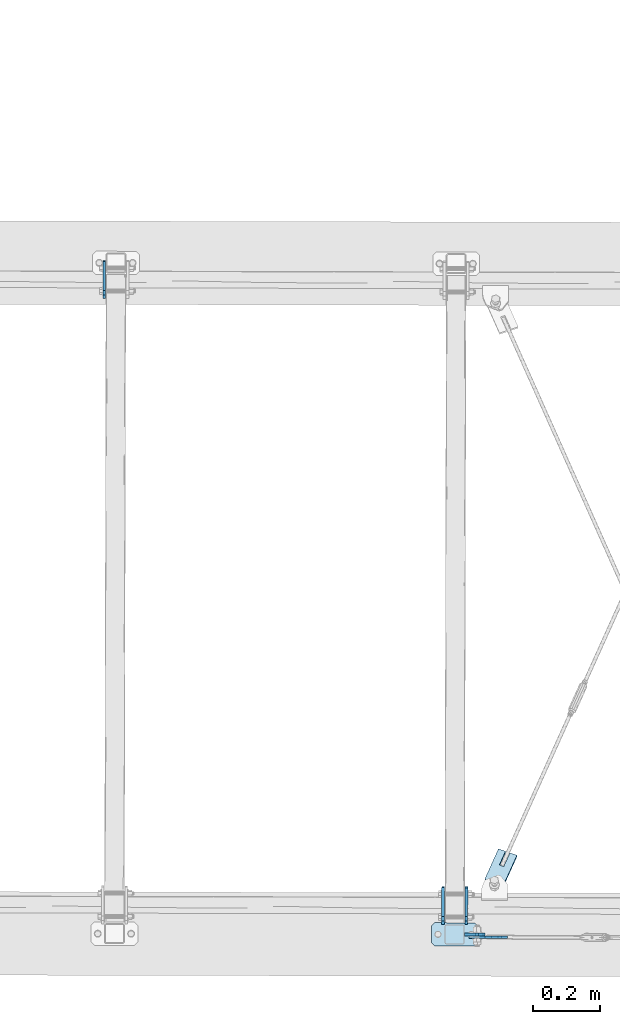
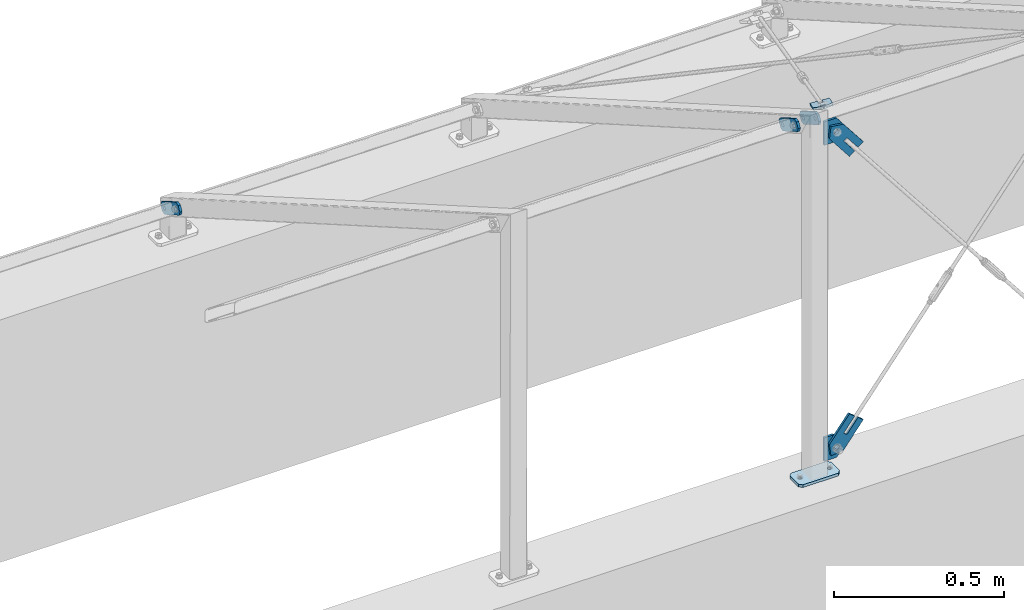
# One storey, part 33 of 288: 9 plates, 40 openings.
"""IFC2X3 building model written with IfcOpenShell, lengths in millimetres."""

from ifc_helpers import new_model, entity, si_unit, converted_unit, point, frame, frame_2d, origin, origin_with_axes, origin_2d_with_axis, place, context, project, spatial, polyline, circle_curve, line_curve, trimmed, segment, composite_curve, circle, outline, extrude, material, layer, layer_set, element, save


model = new_model("IFC2X3")

# Units and contexts
model_context = context("Model", 3, precision=1e-09, world=origin_with_axes())
ifc_project = project(units=[si_unit("LENGTHUNIT", "METRE", prefix="MILLI"), si_unit("AREAUNIT", "SQUARE_METRE"), si_unit("VOLUMEUNIT", "CUBIC_METRE"), converted_unit("PLANEANGLEUNIT", "DEGREE", entity("IfcPlaneAngleMeasure", 0.01745329), si_unit("PLANEANGLEUNIT", "RADIAN"), dimensions=[0, 0, 0, 0, 0, 0, 0])], contexts=[model_context])

# Site, building, storey
site_placement = place(None, origin_with_axes())
site = spatial("IfcSite", under=ifc_project, at=site_placement, Name="Remont ?wietlik?w nad MC w NCPP w Opolu", CompositionType="ELEMENT")
building_placement = place(site_placement, origin_with_axes())
building = spatial("IfcBuilding", under=site, at=building_placement, Name="Konstrukcja 1", CompositionType="ELEMENT")
storey_placement = place(building_placement, origin_with_axes())
storey = spatial("IfcBuildingStorey", under=building, at=storey_placement, Name="Default Storey", CompositionType="ELEMENT", Elevation=0.0)

# Plate, openings
ifc_material = material(Name="S235")
ifc_layer_1 = layer(ifc_material, 8.0)
ifc_layer_set_1 = layer_set([ifc_layer_1], Name="S235")
plate_1_placement = place(None, frame((6027.876649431, -113.930950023, 1232.669373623), z_axis=(0.999997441, -0.002262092, 1.05e-07), x_axis=(0.001959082, 0.866023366, -0.499999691)))
plate_1 = element("IfcPlate", 1, at=plate_1_placement, inside=storey, material=ifc_layer_set_1, Name="-", ObjectType="-", context=model_context, shape_type="SweptSolid", body=[
    extrude(outline(polyline([(0.0, 0.0), (120.0, 0.0), (120.0, 40.0), (0.0, 40.0), (0.0, 0.0)])), origin_with_axes(), (0.0, 0.0, 1.0), 8.0),
])
opening_1_placement = place(plate_1_placement, frame((0.0, 0.0, -0.01), z_axis=(0.0, 0.0, 1.0), x_axis=(1.0, 0.0, 0.0)))
element("IfcOpeningElement", 2, at=opening_1_placement, cuts=plate_1, ObjectType="Opening", context=model_context, shape_type="SweptSolid", body=[
    extrude(outline(composite_curve([segment(trimmed(line_curve((0.0, 40.0), (0.0, -1.0), 10.0), [point((0.0, 40.0))], [point((0.0, 30.0))], True, "CARTESIAN"), True, "CONTINUOUS"), segment(trimmed(circle_curve(frame_2d((10.0, 30.0), x_axis=(-1.0, 0.0)), 10.0), [point((0.0, 30.0))], [point((10.0, 40.0))], False, "CARTESIAN"), True, "CONTINUOUS"), segment(trimmed(line_curve((10.0, 40.0), (-1.0, 0.0), 10.0), [point((10.0, 40.0))], [point((0.0, 40.0))], True, "CARTESIAN"), True, "CONTINUOUS")], self_intersect=False)), origin(), (0.0, 0.0, 1.0), 8.02),
])
opening_2_placement = place(plate_1_placement, frame((0.0, 0.0, -0.01), z_axis=(0.0, 0.0, 1.0), x_axis=(1.0, 0.0, 0.0)))
element("IfcOpeningElement", 3, at=opening_2_placement, cuts=plate_1, ObjectType="Opening", context=model_context, shape_type="SweptSolid", body=[
    extrude(outline(composite_curve([segment(trimmed(line_curve((0.0, 0.0), (1.0, 0.0), 10.0), [point((0.0, 0.0))], [point((10.0, 0.0))], True, "CARTESIAN"), True, "CONTINUOUS"), segment(trimmed(circle_curve(frame_2d((10.0, 10.0), x_axis=(-1.0, 0.0)), 10.0), [point((10.0, 0.0))], [point((0.0, 10.0))], False, "CARTESIAN"), True, "CONTINUOUS"), segment(trimmed(line_curve((0.0, 10.0), (0.0, -1.0), 10.0), [point((0.0, 10.0))], [point((0.0, 0.0))], True, "CARTESIAN"), True, "CONTINUOUS")], self_intersect=False)), origin(), (0.0, 0.0, 1.0), 8.02),
])
opening_3_placement = place(plate_1_placement, frame((0.0, 0.0, -0.01), z_axis=(0.0, 0.0, 1.0), x_axis=(1.0, 0.0, 0.0)))
element("IfcOpeningElement", 4, at=opening_3_placement, cuts=plate_1, ObjectType="Opening", context=model_context, shape_type="SweptSolid", body=[
    extrude(outline(composite_curve([segment(trimmed(line_curve((120.0, 40.0), (-1.0, 0.0), 10.0), [point((120.0, 40.0))], [point((110.0, 40.0))], True, "CARTESIAN"), True, "CONTINUOUS"), segment(trimmed(circle_curve(frame_2d((110.0, 30.0), x_axis=(-1.0, 0.0)), 10.0), [point((110.0, 40.0))], [point((120.0, 30.0))], False, "CARTESIAN"), True, "CONTINUOUS"), segment(trimmed(line_curve((120.0, 30.0), (0.0, 1.0), 10.0), [point((120.0, 30.0))], [point((120.0, 40.0))], True, "CARTESIAN"), True, "CONTINUOUS")], self_intersect=False)), origin(), (0.0, 0.0, 1.0), 8.02),
])
opening_4_placement = place(plate_1_placement, frame((0.0, 0.0, -0.01), z_axis=(0.0, 0.0, 1.0), x_axis=(1.0, 0.0, 0.0)))
element("IfcOpeningElement", 5, at=opening_4_placement, cuts=plate_1, ObjectType="Opening", context=model_context, shape_type="SweptSolid", body=[
    extrude(outline(composite_curve([segment(trimmed(line_curve((120.0, 0.0), (0.0, 1.0), 10.0), [point((120.0, 0.0))], [point((120.0, 10.0))], True, "CARTESIAN"), True, "CONTINUOUS"), segment(trimmed(circle_curve(frame_2d((110.0, 10.0), x_axis=(-1.0, 0.0)), 10.0), [point((120.0, 10.0))], [point((110.0, 0.0))], False, "CARTESIAN"), True, "CONTINUOUS"), segment(trimmed(line_curve((110.0, 0.0), (1.0, 0.0), 10.0), [point((110.0, 0.0))], [point((120.0, 0.0))], True, "CARTESIAN"), True, "CONTINUOUS")], self_intersect=False)), origin(), (0.0, 0.0, 1.0), 8.02),
])
opening_5_placement = place(plate_1_placement, frame((60.0, 20.0, 8.5), z_axis=(0.0, 0.0, -1.0), x_axis=(-1.0, 0.0, 0.0)))
element("IfcOpeningElement", 6, at=opening_5_placement, cuts=plate_1, ObjectType="Opening", context=model_context, shape_type="SweptSolid", body=[
    extrude(circle(Radius=7.001, at=frame_2d((40.0, 0.0), x_axis=(1.0, 0.0))), origin(), (0.0, 0.0, 1.0), 9.0),
])
opening_6_placement = place(plate_1_placement, frame((60.0, 20.0, 8.5), z_axis=(0.0, 0.0, -1.0), x_axis=(-1.0, 0.0, 0.0)))
element("IfcOpeningElement", 7, at=opening_6_placement, cuts=plate_1, ObjectType="Opening", context=model_context, shape_type="SweptSolid", body=[
    extrude(circle(Radius=7.001, at=frame_2d((-40.0, 0.0), x_axis=(1.0, 0.0))), origin(), (0.0, 0.0, 1.0), 9.0),
])

plate_2_placement = place(None, frame((5957.876678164, -113.772749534, 1232.66911287), z_axis=(0.999997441, -0.002262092, 1.05e-07), x_axis=(0.001959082, 0.866023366, -0.499999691)))
plate_2 = element("IfcPlate", 8, at=plate_2_placement, inside=storey, material=ifc_layer_set_1, Name="-", ObjectType="-", context=model_context, shape_type="SweptSolid", body=[
    extrude(outline(polyline([(0.0, 0.0), (120.0, 0.0), (120.0, 40.0), (0.0, 40.0), (0.0, 0.0)])), origin_with_axes(), (0.0, 0.0, 1.0), 8.0),
])
opening_7_placement = place(plate_2_placement, frame((0.0, 0.0, -0.01), z_axis=(0.0, 0.0, 1.0), x_axis=(1.0, 0.0, 0.0)))
element("IfcOpeningElement", 9, at=opening_7_placement, cuts=plate_2, ObjectType="Opening", context=model_context, shape_type="SweptSolid", body=[
    extrude(outline(composite_curve([segment(trimmed(line_curve((0.0, 40.0), (0.0, -1.0), 10.0), [point((0.0, 40.0))], [point((0.0, 30.0))], True, "CARTESIAN"), True, "CONTINUOUS"), segment(trimmed(circle_curve(frame_2d((10.0, 30.0), x_axis=(-1.0, 0.0)), 10.0), [point((0.0, 30.0))], [point((10.0, 40.0))], False, "CARTESIAN"), True, "CONTINUOUS"), segment(trimmed(line_curve((10.0, 40.0), (-1.0, 0.0), 10.0), [point((10.0, 40.0))], [point((0.0, 40.0))], True, "CARTESIAN"), True, "CONTINUOUS")], self_intersect=False)), origin(), (0.0, 0.0, 1.0), 8.02),
])
opening_8_placement = place(plate_2_placement, frame((0.0, 0.0, -0.01), z_axis=(0.0, 0.0, 1.0), x_axis=(1.0, 0.0, 0.0)))
element("IfcOpeningElement", 10, at=opening_8_placement, cuts=plate_2, ObjectType="Opening", context=model_context, shape_type="SweptSolid", body=[
    extrude(outline(composite_curve([segment(trimmed(line_curve((0.0, 0.0), (1.0, 0.0), 10.0), [point((0.0, 0.0))], [point((10.0, 0.0))], True, "CARTESIAN"), True, "CONTINUOUS"), segment(trimmed(circle_curve(frame_2d((10.0, 10.0), x_axis=(-1.0, 0.0)), 10.0), [point((10.0, 0.0))], [point((0.0, 10.0))], False, "CARTESIAN"), True, "CONTINUOUS"), segment(trimmed(line_curve((0.0, 10.0), (0.0, -1.0), 10.0), [point((0.0, 10.0))], [point((0.0, 0.0))], True, "CARTESIAN"), True, "CONTINUOUS")], self_intersect=False)), origin(), (0.0, 0.0, 1.0), 8.02),
])
opening_9_placement = place(plate_2_placement, frame((0.0, 0.0, -0.01), z_axis=(0.0, 0.0, 1.0), x_axis=(1.0, 0.0, 0.0)))
element("IfcOpeningElement", 11, at=opening_9_placement, cuts=plate_2, ObjectType="Opening", context=model_context, shape_type="SweptSolid", body=[
    extrude(outline(composite_curve([segment(trimmed(line_curve((120.0, 40.0), (-1.0, 0.0), 10.0), [point((120.0, 40.0))], [point((110.0, 40.0))], True, "CARTESIAN"), True, "CONTINUOUS"), segment(trimmed(circle_curve(frame_2d((110.0, 30.0), x_axis=(-1.0, 0.0)), 10.0), [point((110.0, 40.0))], [point((120.0, 30.0))], False, "CARTESIAN"), True, "CONTINUOUS"), segment(trimmed(line_curve((120.0, 30.0), (0.0, 1.0), 10.0), [point((120.0, 30.0))], [point((120.0, 40.0))], True, "CARTESIAN"), True, "CONTINUOUS")], self_intersect=False)), origin(), (0.0, 0.0, 1.0), 8.02),
])
opening_10_placement = place(plate_2_placement, frame((0.0, 0.0, -0.01), z_axis=(0.0, 0.0, 1.0), x_axis=(1.0, 0.0, 0.0)))
element("IfcOpeningElement", 12, at=opening_10_placement, cuts=plate_2, ObjectType="Opening", context=model_context, shape_type="SweptSolid", body=[
    extrude(outline(composite_curve([segment(trimmed(line_curve((120.0, 0.0), (0.0, 1.0), 10.0), [point((120.0, 0.0))], [point((120.0, 10.0))], True, "CARTESIAN"), True, "CONTINUOUS"), segment(trimmed(circle_curve(frame_2d((110.0, 10.0), x_axis=(-1.0, 0.0)), 10.0), [point((120.0, 10.0))], [point((110.0, 0.0))], False, "CARTESIAN"), True, "CONTINUOUS"), segment(trimmed(line_curve((110.0, 0.0), (1.0, 0.0), 10.0), [point((110.0, 0.0))], [point((120.0, 0.0))], True, "CARTESIAN"), True, "CONTINUOUS")], self_intersect=False)), origin(), (0.0, 0.0, 1.0), 8.02),
])
opening_11_placement = place(plate_2_placement, frame((60.0, 20.000292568, 8.5), z_axis=(0.0, 0.0, -1.0), x_axis=(-1.0, 0.0, 0.0)))
element("IfcOpeningElement", 13, at=opening_11_placement, cuts=plate_2, ObjectType="Opening", context=model_context, shape_type="SweptSolid", body=[
    extrude(circle(Radius=7.001, at=frame_2d((40.0, 0.0), x_axis=(1.0, 0.0))), origin(), (0.0, 0.0, 1.0), 9.0),
])
opening_12_placement = place(plate_2_placement, frame((60.0, 20.000292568, 8.5), z_axis=(0.0, 0.0, -1.0), x_axis=(-1.0, 0.0, 0.0)))
element("IfcOpeningElement", 14, at=opening_12_placement, cuts=plate_2, ObjectType="Opening", context=model_context, shape_type="SweptSolid", body=[
    extrude(circle(Radius=7.001, at=frame_2d((-40.0, 0.0), x_axis=(1.0, 0.0))), origin(), (0.0, 0.0, 1.0), 9.0),
])

plate_3_placement = place(None, frame((4950.659387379, 1761.994070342, 151.018387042), z_axis=(0.999997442, -0.002261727, -1.05e-07), x_axis=(0.00195866, 0.866023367, -0.499999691)))
plate_3 = element("IfcPlate", 15, at=plate_3_placement, inside=storey, material=ifc_layer_set_1, Name="-", ObjectType="-", context=model_context, shape_type="SweptSolid", body=[
    extrude(outline(polyline([(0.0, 0.0), (120.0, 0.0), (120.0, 40.0), (0.0, 40.0), (0.0, 0.0)])), origin_with_axes(), (0.0, 0.0, -1.0), 8.0),
])
opening_13_placement = place(plate_3_placement, frame((0.0, 40.0, 0.01), z_axis=(0.0, 0.0, 1.0), x_axis=(0.0, -1.0, 0.0)))
element("IfcOpeningElement", 16, at=opening_13_placement, cuts=plate_3, ObjectType="Opening", context=model_context, shape_type="SweptSolid", body=[
    extrude(outline(composite_curve([segment(trimmed(line_curve((0.0, 0.0), (1.0, 0.0), 10.0), [point((0.0, 0.0))], [point((10.0, 0.0))], True, "CARTESIAN"), True, "CONTINUOUS"), segment(trimmed(circle_curve(frame_2d((10.0, 10.0), x_axis=(-1.0, 0.0)), 10.0), [point((10.0, 0.0))], [point((0.0, 10.0))], False, "CARTESIAN"), True, "CONTINUOUS"), segment(trimmed(line_curve((0.0, 10.0), (0.0, -1.0), 10.0), [point((0.0, 10.0))], [point((0.0, 0.0))], True, "CARTESIAN"), True, "CONTINUOUS")], self_intersect=False)), origin(), (0.0, 0.0, -1.0), 8.02),
])
opening_14_placement = place(plate_3_placement, frame((0.0, 0.0, 0.01), z_axis=(0.0, 0.0, 1.0), x_axis=(1.0, 0.0, 0.0)))
element("IfcOpeningElement", 17, at=opening_14_placement, cuts=plate_3, ObjectType="Opening", context=model_context, shape_type="SweptSolid", body=[
    extrude(outline(composite_curve([segment(trimmed(line_curve((0.0, 0.0), (1.0, 0.0), 10.0), [point((0.0, 0.0))], [point((10.0, 0.0))], True, "CARTESIAN"), True, "CONTINUOUS"), segment(trimmed(circle_curve(frame_2d((10.0, 10.0), x_axis=(-1.0, 0.0)), 10.0), [point((10.0, 0.0))], [point((0.0, 10.0))], False, "CARTESIAN"), True, "CONTINUOUS"), segment(trimmed(line_curve((0.0, 10.0), (0.0, -1.0), 10.0), [point((0.0, 10.0))], [point((0.0, 0.0))], True, "CARTESIAN"), True, "CONTINUOUS")], self_intersect=False)), origin(), (0.0, 0.0, -1.0), 8.02),
])
opening_15_placement = place(plate_3_placement, frame((120.0, 40.0, 0.01), z_axis=(0.0, 0.0, 1.0), x_axis=(-1.0, 0.0, 0.0)))
element("IfcOpeningElement", 18, at=opening_15_placement, cuts=plate_3, ObjectType="Opening", context=model_context, shape_type="SweptSolid", body=[
    extrude(outline(composite_curve([segment(trimmed(line_curve((0.0, 0.0), (1.0, 0.0), 10.0), [point((0.0, 0.0))], [point((10.0, 0.0))], True, "CARTESIAN"), True, "CONTINUOUS"), segment(trimmed(circle_curve(frame_2d((10.0, 10.0), x_axis=(-1.0, 0.0)), 10.0), [point((10.0, 0.0))], [point((0.0, 10.0))], False, "CARTESIAN"), True, "CONTINUOUS"), segment(trimmed(line_curve((0.0, 10.0), (0.0, -1.0), 10.0), [point((0.0, 10.0))], [point((0.0, 0.0))], True, "CARTESIAN"), True, "CONTINUOUS")], self_intersect=False)), origin(), (0.0, 0.0, -1.0), 8.02),
])
opening_16_placement = place(plate_3_placement, frame((120.0, 0.0, 0.01), z_axis=(0.0, 0.0, 1.0), x_axis=(0.0, 1.0, 0.0)))
element("IfcOpeningElement", 19, at=opening_16_placement, cuts=plate_3, ObjectType="Opening", context=model_context, shape_type="SweptSolid", body=[
    extrude(outline(composite_curve([segment(trimmed(line_curve((0.0, 0.0), (1.0, 0.0), 10.0), [point((0.0, 0.0))], [point((10.0, 0.0))], True, "CARTESIAN"), True, "CONTINUOUS"), segment(trimmed(circle_curve(frame_2d((10.0, 10.0), x_axis=(-1.0, 0.0)), 10.0), [point((10.0, 0.0))], [point((0.0, 10.0))], False, "CARTESIAN"), True, "CONTINUOUS"), segment(trimmed(line_curve((0.0, 10.0), (0.0, -1.0), 10.0), [point((0.0, 10.0))], [point((0.0, 0.0))], True, "CARTESIAN"), True, "CONTINUOUS")], self_intersect=False)), origin(), (0.0, 0.0, -1.0), 8.02),
])
opening_17_placement = place(plate_3_placement, frame((60.0, 20.0, 0.5), z_axis=(0.0, 0.0, -1.0), x_axis=(-1.0, 0.0, 0.0)))
element("IfcOpeningElement", 20, at=opening_17_placement, cuts=plate_3, ObjectType="Opening", context=model_context, shape_type="SweptSolid", body=[
    extrude(circle(Radius=7.001, at=frame_2d((40.0, 0.0), x_axis=(1.0, 0.0))), origin(), (0.0, 0.0, 1.0), 9.0),
])
opening_18_placement = place(plate_3_placement, frame((60.0, 20.0, 0.5), z_axis=(0.0, 0.0, -1.0), x_axis=(-1.0, 0.0, 0.0)))
element("IfcOpeningElement", 21, at=opening_18_placement, cuts=plate_3, ObjectType="Opening", context=model_context, shape_type="SweptSolid", body=[
    extrude(circle(Radius=7.001, at=frame_2d((-40.0, 0.0), x_axis=(1.0, 0.0))), origin(), (0.0, 0.0, 1.0), 9.0),
])

ifc_layer_2 = layer(ifc_material, 10.0)
ifc_layer_set_2 = layer_set([ifc_layer_2], Name="S235")
plate_4_placement = place(None, frame((6066.89985692, -103.678053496, 10.000000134), z_axis=(0.0, 0.0, -1.0), x_axis=(-0.002261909, -0.999997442, 0.0)))
plate_4 = element("IfcPlate", 22, at=plate_4_placement, inside=storey, material=ifc_layer_set_2, Name="Baseplate", ObjectType="Baseplate", context=model_context, shape_type="SweptSolid", body=[
    extrude(outline(polyline([(0.0, 0.0), (70.0, 0.0), (70.0, 140.0), (0.0, 140.0), (0.0, 0.0)])), origin_with_axes(), (0.0, 0.0, 1.0), 10.0),
])
opening_19_placement = place(plate_4_placement, frame((0.0, 0.0, -0.01), z_axis=(0.0, 0.0, 1.0), x_axis=(1.0, 0.0, 0.0)))
element("IfcOpeningElement", 23, at=opening_19_placement, cuts=plate_4, ObjectType="Opening", context=model_context, shape_type="SweptSolid", body=[
    extrude(outline(composite_curve([segment(trimmed(line_curve((70.0, 0.0), (0.0, 1.0), 10.0), [point((70.0, 0.0))], [point((70.0, 10.0))], True, "CARTESIAN"), True, "CONTINUOUS"), segment(trimmed(circle_curve(frame_2d((60.0, 10.0), x_axis=(-1.0, 0.0)), 10.0), [point((70.0, 10.0))], [point((60.0, 0.0))], False, "CARTESIAN"), True, "CONTINUOUS"), segment(trimmed(line_curve((60.0, 0.0), (1.0, 0.0), 10.0), [point((60.0, 0.0))], [point((70.0, 0.0))], True, "CARTESIAN"), True, "CONTINUOUS")], self_intersect=False)), origin(), (0.0, 0.0, 1.0), 10.02),
])
opening_20_placement = place(plate_4_placement, frame((0.0, 0.0, -0.01), z_axis=(0.0, 0.0, 1.0), x_axis=(1.0, 0.0, 0.0)))
element("IfcOpeningElement", 24, at=opening_20_placement, cuts=plate_4, ObjectType="Opening", context=model_context, shape_type="SweptSolid", body=[
    extrude(outline(composite_curve([segment(trimmed(line_curve((0.0, 0.0), (1.0, 0.0), 10.0), [point((0.0, 0.0))], [point((10.0, 0.0))], True, "CARTESIAN"), True, "CONTINUOUS"), segment(trimmed(circle_curve(frame_2d((10.0, 10.0), x_axis=(-1.0, 0.0)), 10.0), [point((10.0, 0.0))], [point((0.0, 10.0))], False, "CARTESIAN"), True, "CONTINUOUS"), segment(trimmed(line_curve((0.0, 10.0), (0.0, -1.0), 10.0), [point((0.0, 10.0))], [point((0.0, 0.0))], True, "CARTESIAN"), True, "CONTINUOUS")], self_intersect=False)), origin(), (0.0, 0.0, 1.0), 10.02),
])
opening_21_placement = place(plate_4_placement, frame((0.0, 0.0, -0.01), z_axis=(0.0, 0.0, 1.0), x_axis=(1.0, 0.0, 0.0)))
element("IfcOpeningElement", 25, at=opening_21_placement, cuts=plate_4, ObjectType="Opening", context=model_context, shape_type="SweptSolid", body=[
    extrude(outline(composite_curve([segment(trimmed(line_curve((70.0, 140.0), (-1.0, 0.0), 10.0), [point((70.0, 140.0))], [point((60.0, 140.0))], True, "CARTESIAN"), True, "CONTINUOUS"), segment(trimmed(circle_curve(frame_2d((60.0, 130.0), x_axis=(-1.0, 0.0)), 10.0), [point((60.0, 140.0))], [point((70.0, 130.0))], False, "CARTESIAN"), True, "CONTINUOUS"), segment(trimmed(line_curve((70.0, 130.0), (0.0, 1.0), 10.0), [point((70.0, 130.0))], [point((70.0, 140.0))], True, "CARTESIAN"), True, "CONTINUOUS")], self_intersect=False)), origin(), (0.0, 0.0, 1.0), 10.02),
])
opening_22_placement = place(plate_4_placement, frame((0.0, 0.0, -0.01), z_axis=(0.0, 0.0, 1.0), x_axis=(1.0, 0.0, 0.0)))
element("IfcOpeningElement", 26, at=opening_22_placement, cuts=plate_4, ObjectType="Opening", context=model_context, shape_type="SweptSolid", body=[
    extrude(outline(composite_curve([segment(trimmed(line_curve((0.0, 140.0), (0.0, -1.0), 10.0), [point((0.0, 140.0))], [point((0.0, 130.0))], True, "CARTESIAN"), True, "CONTINUOUS"), segment(trimmed(circle_curve(frame_2d((10.0, 130.0), x_axis=(-1.0, 0.0)), 10.0), [point((0.0, 130.0))], [point((10.0, 140.0))], False, "CARTESIAN"), True, "CONTINUOUS"), segment(trimmed(line_curve((10.0, 140.0), (-1.0, 0.0), 10.0), [point((10.0, 140.0))], [point((0.0, 140.0))], True, "CARTESIAN"), True, "CONTINUOUS")], self_intersect=False)), origin(), (0.0, 0.0, 1.0), 10.02),
])
opening_23_placement = place(plate_4_placement, frame((35.0, 120.0, 10.5), z_axis=(0.0, 0.0, -1.0), x_axis=(1.0, 0.0, 0.0)))
element("IfcOpeningElement", 27, at=opening_23_placement, cuts=plate_4, ObjectType="Opening", context=model_context, shape_type="SweptSolid", body=[
    extrude(circle(Radius=6.001, at=origin_2d_with_axis()), origin(), (0.0, 0.0, 1.0), 11.0),
])
opening_24_placement = place(plate_4_placement, frame((35.0, 20.0, 10.5), z_axis=(0.0, 0.0, -1.0), x_axis=(1.0, 0.0, 0.0)))
element("IfcOpeningElement", 28, at=opening_24_placement, cuts=plate_4, ObjectType="Opening", context=model_context, shape_type="SweptSolid", body=[
    extrude(circle(Radius=6.001, at=origin_2d_with_axis()), origin(), (0.0, 0.0, 1.0), 11.0),
])

plate_5_placement = place(None, frame((6155.107534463, -142.876484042, 153.902138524), z_axis=(-0.002254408, -0.999997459, 0.0), x_axis=(-0.788044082, 0.001776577, 0.615616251)))
plate_5 = element("IfcPlate", 29, at=plate_5_placement, inside=storey, material=ifc_layer_set_1, Name="Tab_Plate#1", ObjectType="Tab_Plate#1", context=model_context, shape_type="SweptSolid", body=[
    extrude(outline(polyline([(0.0, 0.0), (60.0, 0.0), (60.0, 140.0), (0.0, 140.0), (0.0, 0.0)])), origin_with_axes(), (0.0, 0.0, 1.0), 8.0),
])
opening_25_placement = place(plate_5_placement, frame((0.0, 0.0, -0.01), z_axis=(0.0, 0.0, 1.0), x_axis=(1.0, 0.0, 0.0)))
element("IfcOpeningElement", 30, at=opening_25_placement, cuts=plate_5, ObjectType="Opening", context=model_context, shape_type="SweptSolid", body=[
    extrude(outline(composite_curve([segment(trimmed(line_curve((60.0, 140.0), (-1.0, 0.0), 30.0), [point((60.0, 140.0))], [point((30.0, 140.0))], True, "CARTESIAN"), True, "CONTINUOUS"), segment(trimmed(circle_curve(frame_2d((30.0, 110.0), x_axis=(-1.0, 0.0)), 30.0), [point((30.0, 140.0))], [point((60.0, 110.0))], False, "CARTESIAN"), True, "CONTINUOUS"), segment(trimmed(line_curve((60.0, 110.0), (0.0, 1.0), 30.0), [point((60.0, 110.0))], [point((60.0, 140.0))], True, "CARTESIAN"), True, "CONTINUOUS")], self_intersect=False)), origin(), (0.0, 0.0, 1.0), 8.02),
])
opening_26_placement = place(plate_5_placement, frame((0.0, 0.0, -0.01), z_axis=(0.0, 0.0, 1.0), x_axis=(1.0, 0.0, 0.0)))
element("IfcOpeningElement", 31, at=opening_26_placement, cuts=plate_5, ObjectType="Opening", context=model_context, shape_type="SweptSolid", body=[
    extrude(outline(composite_curve([segment(trimmed(line_curve((0.0, 140.0), (0.0, -1.0), 30.0), [point((0.0, 140.0))], [point((0.0, 110.0))], True, "CARTESIAN"), True, "CONTINUOUS"), segment(trimmed(circle_curve(frame_2d((30.0, 110.0), x_axis=(-1.0, 0.0)), 30.0), [point((0.0, 110.0))], [point((30.0, 140.0))], False, "CARTESIAN"), True, "CONTINUOUS"), segment(trimmed(line_curve((30.0, 140.0), (-1.0, 0.0), 30.0), [point((30.0, 140.0))], [point((0.0, 140.0))], True, "CARTESIAN"), True, "CONTINUOUS")], self_intersect=False)), origin(), (0.0, 0.0, 1.0), 8.02),
])
opening_27_placement = place(plate_5_placement, frame((0.0, 0.0, 8.1), z_axis=(0.0, 0.0, -1.0), x_axis=(0.788046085, 0.615616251, 0.0)))
element("IfcOpeningElement", 32, at=opening_27_placement, cuts=plate_5, ObjectType="Opening", context=model_context, shape_type="SweptSolid", body=[
    extrude(outline(polyline([(55.677478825, -33.913041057), (66.711700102, -25.293182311), (29.157877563, 22.779204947), (18.123656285, 14.159346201), (55.677478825, -33.913041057)])), origin(), (0.0, 0.0, 1.0), 8.2),
])
opening_28_placement = place(plate_5_placement, frame((30.0, 110.0, 8.5), z_axis=(0.0, 0.0, -1.0), x_axis=(0.0, -1.0, 0.0)))
element("IfcOpeningElement", 33, at=opening_28_placement, cuts=plate_5, ObjectType="Opening", context=model_context, shape_type="SweptSolid", body=[
    extrude(circle(Radius=9.001, at=origin_2d_with_axis()), origin(), (0.0, 0.0, 1.0), 9.0),
])

plate_6_placement = place(None, frame((6058.575714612, -142.658861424, 127.795426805), z_axis=(0.002254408, 0.999997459, 0.0), x_axis=(0.788044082, -0.001776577, -0.615616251)))
plate_6 = element("IfcPlate", 34, at=plate_6_placement, inside=storey, material=ifc_layer_set_1, Name="Gusset#1", ObjectType="Gusset#1", context=model_context, shape_type="SweptSolid", body=[
    extrude(outline(polyline([(0.0, 0.0), (60.0, 0.0), (60.0, 60.0), (26.815552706, 85.923464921), (-25.031487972, 19.554428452), (0.0, 0.0)])), origin_with_axes(), (0.0, 0.0, 1.0), 8.0),
])
opening_29_placement = place(plate_6_placement, frame((30.0, 30.0, -0.5), z_axis=(0.0, 0.0, 1.0), x_axis=(0.0, -1.0, 0.0)))
element("IfcOpeningElement", 35, at=opening_29_placement, cuts=plate_6, ObjectType="Opening", context=model_context, shape_type="SweptSolid", body=[
    extrude(circle(Radius=9.001, at=origin_2d_with_axis()), origin(), (0.0, 0.0, 1.0), 9.0),
])
opening_30_placement = place(plate_6_placement, frame((0.0, 0.0, -0.01), z_axis=(0.0, 0.0, 1.0), x_axis=(1.0, 0.0, 0.0)))
element("IfcOpeningElement", 36, at=opening_30_placement, cuts=plate_6, ObjectType="Opening", context=model_context, shape_type="SweptSolid", body=[
    extrude(outline(composite_curve([segment(trimmed(line_curve((60.0, 0.0), (0.0, 1.0), 30.0), [point((60.0, 0.0))], [point((60.0, 30.0))], True, "CARTESIAN"), True, "CONTINUOUS"), segment(trimmed(circle_curve(frame_2d((30.0, 30.0), x_axis=(-1.0, 0.0)), 30.0), [point((60.0, 30.0))], [point((30.0, 0.0))], False, "CARTESIAN"), True, "CONTINUOUS"), segment(trimmed(line_curve((30.0, 0.0), (1.0, 0.0), 30.0), [point((30.0, 0.0))], [point((60.0, 0.0))], True, "CARTESIAN"), True, "CONTINUOUS")], self_intersect=False)), origin(), (0.0, 0.0, 1.0), 8.02),
])

plate_7_placement = place(None, frame((6155.089451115, -150.871190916, 1151.097861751), z_axis=(0.002269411, 0.999997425, 0.0), x_axis=(-0.788044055, 0.0017884, -0.615616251)))
plate_7 = element("IfcPlate", 37, at=plate_7_placement, inside=storey, material=ifc_layer_set_1, Name="Tab_Plate#2", ObjectType="Tab_Plate#2", context=model_context, shape_type="SweptSolid", body=[
    extrude(outline(polyline([(0.0, 0.0), (60.0, 0.0), (60.0, 140.0), (0.0, 140.0), (0.0, 0.0)])), origin_with_axes(), (0.0, 0.0, 1.0), 8.0),
])
opening_31_placement = place(plate_7_placement, frame((0.0, 0.0, -0.01), z_axis=(0.0, 0.0, 1.0), x_axis=(1.0, 0.0, 0.0)))
element("IfcOpeningElement", 38, at=opening_31_placement, cuts=plate_7, ObjectType="Opening", context=model_context, shape_type="SweptSolid", body=[
    extrude(outline(composite_curve([segment(trimmed(line_curve((60.0, 140.0), (-1.0, 0.0), 30.0), [point((60.0, 140.0))], [point((30.0, 140.0))], True, "CARTESIAN"), True, "CONTINUOUS"), segment(trimmed(circle_curve(frame_2d((30.0, 110.0), x_axis=(-1.0, 0.0)), 30.0), [point((30.0, 140.0))], [point((60.0, 110.0))], False, "CARTESIAN"), True, "CONTINUOUS"), segment(trimmed(line_curve((60.0, 110.0), (0.0, 1.0), 30.0), [point((60.0, 110.0))], [point((60.0, 140.0))], True, "CARTESIAN"), True, "CONTINUOUS")], self_intersect=False)), origin(), (0.0, 0.0, 1.0), 8.02),
])
opening_32_placement = place(plate_7_placement, frame((0.0, 0.0, -0.01), z_axis=(0.0, 0.0, 1.0), x_axis=(1.0, 0.0, 0.0)))
element("IfcOpeningElement", 39, at=opening_32_placement, cuts=plate_7, ObjectType="Opening", context=model_context, shape_type="SweptSolid", body=[
    extrude(outline(composite_curve([segment(trimmed(line_curve((0.0, 140.0), (0.0, -1.0), 30.0), [point((0.0, 140.0))], [point((0.0, 110.0))], True, "CARTESIAN"), True, "CONTINUOUS"), segment(trimmed(circle_curve(frame_2d((30.0, 110.0), x_axis=(-1.0, 0.0)), 30.0), [point((0.0, 110.0))], [point((30.0, 140.0))], False, "CARTESIAN"), True, "CONTINUOUS"), segment(trimmed(line_curve((30.0, 140.0), (-1.0, 0.0), 30.0), [point((30.0, 140.0))], [point((0.0, 140.0))], True, "CARTESIAN"), True, "CONTINUOUS")], self_intersect=False)), origin(), (0.0, 0.0, 1.0), 8.02),
])
opening_33_placement = place(plate_7_placement, frame((0.0, 0.0, 8.1), z_axis=(0.0, 0.0, -1.0), x_axis=(-0.788046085, -0.615616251, 0.0)))
element("IfcOpeningElement", 40, at=opening_33_placement, cuts=plate_7, ObjectType="Opening", context=model_context, shape_type="SweptSolid", body=[
    extrude(outline(polyline([(-55.677478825, 33.913041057), (-66.711700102, 25.293182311), (-29.157877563, -22.779204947), (-18.123656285, -14.159346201), (-55.677478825, 33.913041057)])), origin(), (0.0, 0.0, 1.0), 8.2),
])
opening_34_placement = place(plate_7_placement, frame((30.0, 110.0, 8.5), z_axis=(0.0, 0.0, -1.0), x_axis=(0.0, -1.0, 0.0)))
element("IfcOpeningElement", 41, at=opening_34_placement, cuts=plate_7, ObjectType="Opening", context=model_context, shape_type="SweptSolid", body=[
    extrude(circle(Radius=9.001, at=origin_2d_with_axis()), origin(), (0.0, 0.0, 1.0), 9.0),
])

plate_8_placement = place(None, frame((6058.593945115, -134.652161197, 1177.20457347), z_axis=(-0.002269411, -0.999997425, 0.0), x_axis=(0.788044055, -0.0017884, 0.615616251)))
plate_8 = element("IfcPlate", 42, at=plate_8_placement, inside=storey, material=ifc_layer_set_1, Name="Gusset#2", ObjectType="Gusset#2", context=model_context, shape_type="SweptSolid", body=[
    extrude(outline(polyline([(0.0, 0.0), (60.0, 0.0), (60.0, 60.0), (26.815458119, 85.923538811), (-25.031582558, 19.554502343), (0.0, 0.0)])), origin_with_axes(), (0.0, 0.0, 1.0), 8.0),
])
opening_35_placement = place(plate_8_placement, frame((30.0, 30.0, -0.5), z_axis=(0.0, 0.0, 1.0), x_axis=(0.0, -1.0, 0.0)))
element("IfcOpeningElement", 43, at=opening_35_placement, cuts=plate_8, ObjectType="Opening", context=model_context, shape_type="SweptSolid", body=[
    extrude(circle(Radius=9.001, at=origin_2d_with_axis()), origin(), (0.0, 0.0, 1.0), 9.0),
])
opening_36_placement = place(plate_8_placement, frame((0.0, 0.0, -0.01), z_axis=(0.0, 0.0, 1.0), x_axis=(1.0, 0.0, 0.0)))
element("IfcOpeningElement", 44, at=opening_36_placement, cuts=plate_8, ObjectType="Opening", context=model_context, shape_type="SweptSolid", body=[
    extrude(outline(composite_curve([segment(trimmed(line_curve((60.0, 0.0), (0.0, 1.0), 30.0), [point((60.0, 0.0))], [point((60.0, 30.0))], True, "CARTESIAN"), True, "CONTINUOUS"), segment(trimmed(circle_curve(frame_2d((30.0, 30.0), x_axis=(-1.0, 0.0)), 30.0), [point((60.0, 30.0))], [point((30.0, 0.0))], False, "CARTESIAN"), True, "CONTINUOUS"), segment(trimmed(line_curve((30.0, 0.0), (1.0, 0.0), 30.0), [point((30.0, 0.0))], [point((60.0, 0.0))], True, "CARTESIAN"), True, "CONTINUOUS")], self_intersect=False)), origin(), (0.0, 0.0, 1.0), 8.02),
])

plate_9_placement = place(None, frame((6127.847508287, 117.754132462, 1135.726633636), z_axis=(-0.001127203, -0.499998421, -0.866025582), x_axis=(0.931267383, -0.316048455, 0.181257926)))
plate_9 = element("IfcPlate", 45, at=plate_9_placement, inside=storey, material=ifc_layer_set_1, Name="Tab_Plate#1", ObjectType="Tab_Plate#1", context=model_context, shape_type="SweptSolid", body=[
    extrude(outline(polyline([(0.0, 0.0), (60.0, 0.0), (60.0, 140.0), (0.0, 140.0), (0.0, 0.0)])), origin_with_axes(), (0.0, 0.0, 1.0), 8.0),
])
opening_37_placement = place(plate_9_placement, frame((0.0, 0.0, -0.01), z_axis=(0.0, 0.0, 1.0), x_axis=(1.0, 0.0, 0.0)))
element("IfcOpeningElement", 46, at=opening_37_placement, cuts=plate_9, ObjectType="Opening", context=model_context, shape_type="SweptSolid", body=[
    extrude(outline(composite_curve([segment(trimmed(line_curve((60.0, 140.0), (-1.0, 0.0), 30.0), [point((60.0, 140.0))], [point((30.0, 140.0))], True, "CARTESIAN"), True, "CONTINUOUS"), segment(trimmed(circle_curve(frame_2d((30.0, 110.0), x_axis=(-1.0, 0.0)), 30.0), [point((30.0, 140.0))], [point((60.0, 110.0))], False, "CARTESIAN"), True, "CONTINUOUS"), segment(trimmed(line_curve((60.0, 110.0), (0.0, 1.0), 30.0), [point((60.0, 110.0))], [point((60.0, 140.0))], True, "CARTESIAN"), True, "CONTINUOUS")], self_intersect=False)), origin(), (0.0, 0.0, 1.0), 8.02),
])
opening_38_placement = place(plate_9_placement, frame((0.0, 0.0, -0.01), z_axis=(0.0, 0.0, 1.0), x_axis=(1.0, 0.0, 0.0)))
element("IfcOpeningElement", 47, at=opening_38_placement, cuts=plate_9, ObjectType="Opening", context=model_context, shape_type="SweptSolid", body=[
    extrude(outline(composite_curve([segment(trimmed(line_curve((0.0, 140.0), (0.0, -1.0), 30.0), [point((0.0, 140.0))], [point((0.0, 110.0))], True, "CARTESIAN"), True, "CONTINUOUS"), segment(trimmed(circle_curve(frame_2d((30.0, 110.0), x_axis=(-1.0, 0.0)), 30.0), [point((0.0, 110.0))], [point((30.0, 140.0))], False, "CARTESIAN"), True, "CONTINUOUS"), segment(trimmed(line_curve((30.0, 140.0), (-1.0, 0.0), 30.0), [point((30.0, 140.0))], [point((0.0, 140.0))], True, "CARTESIAN"), True, "CONTINUOUS")], self_intersect=False)), origin(), (0.0, 0.0, 1.0), 8.02),
])
opening_39_placement = place(plate_9_placement, frame((0.0, 0.0, 8.1), z_axis=(0.0, 0.0, -1.0), x_axis=(-0.931977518, 0.362516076, 0.0)))
element("IfcOpeningElement", 48, at=opening_39_placement, cuts=plate_9, ObjectType="Opening", context=model_context, shape_type="SweptSolid", body=[
    extrude(outline(polyline([(-2.945868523, 55.869292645), (-15.995417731, 60.945242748), (-34.484462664, 13.412525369), (-21.434913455, 8.336575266), (-2.945868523, 55.869292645)])), origin(), (0.0, 0.0, 1.0), 8.2),
])
opening_40_placement = place(plate_9_placement, frame((30.0, 110.0, 8.5), z_axis=(0.0, 0.0, -1.0), x_axis=(0.0, -1.0, 0.0)))
element("IfcOpeningElement", 49, at=opening_40_placement, cuts=plate_9, ObjectType="Opening", context=model_context, shape_type="SweptSolid", body=[
    extrude(circle(Radius=9.001, at=origin_2d_with_axis()), origin(), (0.0, 0.0, 1.0), 9.0),
])

save(model, "model.ifc")
